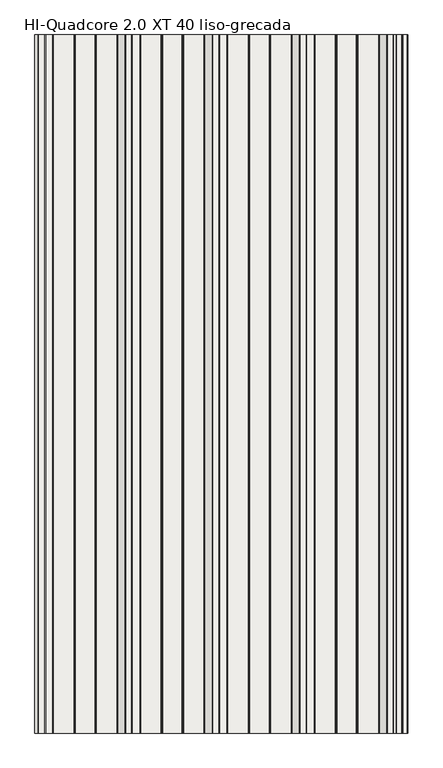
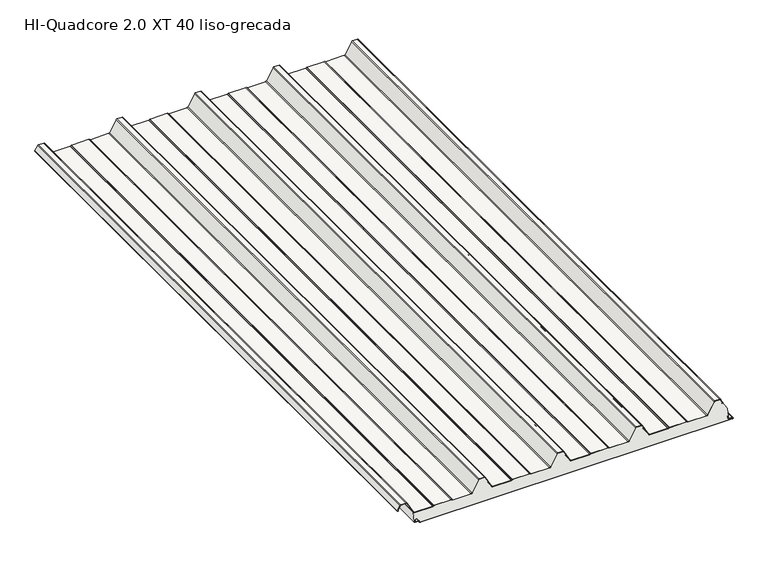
"""IFC4 building model written with IfcOpenShell, lengths in millimetres: slab geometry, HI_QuadCore2.0XT-XT DUAL : HI-Quadcore 2.0 XT 40 liso-grecada."""

from ifc_helpers import new_model, si_unit, point, frame, frame_2d, origin, place, context, project, spatial, polyline, circle_curve, trimmed, segment, composite_curve, outline, extrude, source, transform, mapped, element, save
from ifc_brep_helpers import plane_surface, cylinder_surface, revolved_surface, advanced_brep


def hi_quadcore_2_0_xt_40_liso_grecada_13bfc901(model_context):
    return source(origin(), model_context, "Body", "SolidModel", [
        advanced_brep(
        [(1186.4313891, 0.0, 13.3795578), (1185.8456418, 0.0, 11.9654043), (1185.8456037, 0.0, 8.2995811), (1187.6996787, 0.0, 6.328543), (1198.1077232, 0.0, 5.5663871), (1199.9032632, 0.0, 3.5769209), (1199.9033076, 0.0, 1.9756011), (1201.903363, 0.0, -0.0243435), (2197.9162803, 0.0, 0.003269), (2199.9046779, 0.0, 2.0032908), (2199.904653, 0.0, 2.9012893), (2198.0077486, 0.0, 4.8985749), (2186.1928118, 0.0, 5.7933732), (2184.3438482, 0.0, 7.7876066), (2184.3437386, 0.0, 11.7402379), (2183.757913, 0.0, 13.1544352), (2182.3436602, 0.0, 14.5686095), (2181.7779748, 0.0, 14.0029241), (2183.1922433, 0.0, 12.5887341), (2183.5437386, 0.0, 11.7402157), (2183.5438482, 0.0, 7.7875844), (2186.1323972, 0.0, 4.9956577), (2197.958132, 0.0, 4.1000416), (2199.104653, 0.0, 2.9012672), (2199.1046779, 0.0, 2.0032686), (2197.9136554, 0.0, 0.8032689), (1201.9033408, 0.0, 0.7756565), (1200.7033076, 0.0, 1.9756233), (1200.7032632, 0.0, 3.5769431), (1198.1768616, 0.0, 6.3634663), (1187.7581044, 0.0, 7.1264067), (1186.6457428, 0.0, 8.3231689), (1186.6456418, 0.0, 11.965396), (1186.9970902, 0.0, 12.8138881), (1189.1032183, 0.0, 14.920133), (1188.5375329, 0.0, 15.4858184), (1186.4313891, 2000.0, 13.3795578), (1188.5375329, 2000.0, 15.4858184), (1189.1032183, 2000.0, 14.920133), (1186.9970902, 2000.0, 12.8138881), (1186.6456418, 2000.0, 11.965396), (1186.6456037, 2000.0, 8.2995728), (1187.7581044, 2000.0, 7.1264067), (1198.1768616, 2000.0, 6.3634663), (1200.7032632, 2000.0, 3.5769431), (1200.7033076, 2000.0, 1.9756233), (1201.9033408, 2000.0, 0.7756565), (2197.9136554, 2000.0, 0.8032689), (2199.1046779, 2000.0, 2.0032686), (2199.104653, 2000.0, 2.9012672), (2197.958132, 2000.0, 4.1000416), (2186.1323972, 2000.0, 4.9956577), (2183.5438482, 2000.0, 7.7875844), (2183.5437386, 2000.0, 11.7402157), (2183.1922433, 2000.0, 12.5887341), (2181.7779748, 2000.0, 14.0029241), (2182.3436602, 2000.0, 14.5686095), (2183.757913, 2000.0, 13.1544352), (2184.3437386, 2000.0, 11.7402379), (2184.3438482, 2000.0, 7.7876066), (2186.1928118, 2000.0, 5.7933732), (2198.0077486, 2000.0, 4.8985749), (2199.904653, 2000.0, 2.9012893), (2199.9046779, 2000.0, 2.0032908), (2197.9162803, 2000.0, 0.003269), (1201.903363, 2000.0, -0.0243435), (1199.9033076, 2000.0, 1.9756011), (1199.9032632, 2000.0, 3.5769209), (1198.1077232, 2000.0, 5.5663871), (1187.6996787, 2000.0, 6.328543), (1185.8457428, 2000.0, 8.3231467), (1185.8456418, 2000.0, 11.9654043)],
        [
            (0, 1, circle_curve(frame((1187.8456418, 0.0, 11.9653834), z_axis=(0.0, -1.0, 0.0), x_axis=(1.0, 0.0, 0.0)), 2.0)),
            (1, 2),
            (2, 3, circle_curve(frame((1187.8457428, 0.0, 8.3232022), z_axis=(0.0, -1.0, 0.0), x_axis=(1.0, 0.0, 0.0)), 2.0)),
            (3, 4),
            (4, 5, circle_curve(frame((1197.9032632, 0.0, 3.5768655), z_axis=(0.0, 1.0, 0.0), x_axis=(1.0, 0.0, 0.0)), 2.0)),
            (5, 6),
            (6, 7, circle_curve(frame((1201.9033076, 0.0, 1.9756565), z_axis=(0.0, -1.0, 0.0), x_axis=(1.0, 0.0, 0.0)), 2.0)),
            (7, 8),
            (8, 9, circle_curve(frame((2197.9046779, 0.0, 2.0032353), z_axis=(0.0, -1.0, 0.0), x_axis=(1.0, 0.0, 0.0)), 2.0)),
            (9, 10),
            (10, 11, circle_curve(frame((2197.904653, 0.0, 2.9012339), z_axis=(0.0, -1.0, 0.0), x_axis=(1.0, 0.0, 0.0)), 2.0)),
            (11, 12),
            (12, 13, circle_curve(frame((2186.3438482, 0.0, 7.7876621), z_axis=(0.0, 1.0, 0.0), x_axis=(1.0, 0.0, 0.0)), 2.0)),
            (13, 14),
            (14, 15, circle_curve(frame((2182.3437386, 0.0, 11.7401824), z_axis=(0.0, -1.0, 0.0), x_axis=(1.0, 0.0, 0.0)), 2.0)),
            (15, 16),
            (16, 17),
            (17, 18),
            (18, 19, circle_curve(frame((2182.3437386, 0.0, 11.7401824), z_axis=(0.0, 1.0, 0.0), x_axis=(1.0, 0.0, 0.0)), 1.2)),
            (19, 20),
            (20, 21, circle_curve(frame((2186.3438482, 0.0, 7.7876621), z_axis=(0.0, -1.0, 0.0), x_axis=(1.0, 0.0, 0.0)), 2.8)),
            (21, 22),
            (22, 23, circle_curve(frame((2197.904653, 0.0, 2.9012339), z_axis=(0.0, 1.0, 0.0), x_axis=(1.0, 0.0, 0.0)), 1.2)),
            (23, 24),
            (24, 25, circle_curve(frame((2197.9046779, 0.0, 2.0032353), z_axis=(0.0, 1.0, 0.0), x_axis=(1.0, 0.0, 0.0)), 1.2)),
            (25, 26),
            (26, 27, circle_curve(frame((1201.9033076, 0.0, 1.9756565), z_axis=(0.0, 1.0, 0.0), x_axis=(1.0, 0.0, 0.0)), 1.2)),
            (27, 28),
            (28, 29, circle_curve(frame((1197.9032632, 0.0, 3.5768655), z_axis=(0.0, -1.0, 0.0), x_axis=(1.0, 0.0, 0.0)), 2.8)),
            (29, 30),
            (30, 31, circle_curve(frame((1187.8457428, 0.0, 8.3232022), z_axis=(0.0, 1.0, 0.0), x_axis=(1.0, 0.0, 0.0)), 1.2)),
            (31, 32),
            (32, 33, circle_curve(frame((1187.8456418, 0.0, 11.9653834), z_axis=(0.0, 1.0, 0.0), x_axis=(1.0, 0.0, 0.0)), 1.2)),
            (33, 34),
            (34, 35),
            (35, 0),
            (36, 37),
            (37, 38),
            (38, 39),
            (39, 40, circle_curve(frame((1187.8456418, 2000.0, 11.9653834), z_axis=(0.0, -1.0, 0.0), x_axis=(1.0, 0.0, 0.0)), 1.2)),
            (40, 41),
            (41, 42, circle_curve(frame((1187.8457428, 2000.0, 8.3232022), z_axis=(0.0, -1.0, 0.0), x_axis=(1.0, 0.0, 0.0)), 1.2)),
            (42, 43),
            (43, 44, circle_curve(frame((1197.9032632, 2000.0, 3.5768655), z_axis=(0.0, 1.0, 0.0), x_axis=(1.0, 0.0, 0.0)), 2.8)),
            (44, 45),
            (45, 46, circle_curve(frame((1201.9033076, 2000.0, 1.9756565), z_axis=(0.0, -1.0, 0.0), x_axis=(1.0, 0.0, 0.0)), 1.2)),
            (46, 47),
            (47, 48, circle_curve(frame((2197.9046779, 2000.0, 2.0032353), z_axis=(0.0, -1.0, 0.0), x_axis=(1.0, 0.0, 0.0)), 1.2)),
            (48, 49),
            (49, 50, circle_curve(frame((2197.904653, 2000.0, 2.9012339), z_axis=(0.0, -1.0, 0.0), x_axis=(1.0, 0.0, 0.0)), 1.2)),
            (50, 51),
            (51, 52, circle_curve(frame((2186.3438482, 2000.0, 7.7876621), z_axis=(0.0, 1.0, 0.0), x_axis=(1.0, 0.0, 0.0)), 2.8)),
            (52, 53),
            (53, 54, circle_curve(frame((2182.3437386, 2000.0, 11.7401824), z_axis=(0.0, -1.0, 0.0), x_axis=(1.0, 0.0, 0.0)), 1.2)),
            (54, 55),
            (55, 56),
            (56, 57),
            (57, 58, circle_curve(frame((2182.3437386, 2000.0, 11.7401824), z_axis=(0.0, 1.0, 0.0), x_axis=(1.0, 0.0, 0.0)), 2.0)),
            (58, 59),
            (59, 60, circle_curve(frame((2186.3438482, 2000.0, 7.7876621), z_axis=(0.0, -1.0, 0.0), x_axis=(1.0, 0.0, 0.0)), 2.0)),
            (60, 61),
            (61, 62, circle_curve(frame((2197.904653, 2000.0, 2.9012339), z_axis=(0.0, 1.0, 0.0), x_axis=(1.0, 0.0, 0.0)), 2.0)),
            (62, 63),
            (63, 64, circle_curve(frame((2197.9046779, 2000.0, 2.0032353), z_axis=(0.0, 1.0, 0.0), x_axis=(1.0, 0.0, 0.0)), 2.0)),
            (64, 65),
            (65, 66, circle_curve(frame((1201.9033076, 2000.0, 1.9756565), z_axis=(0.0, 1.0, 0.0), x_axis=(1.0, 0.0, 0.0)), 2.0)),
            (66, 67),
            (67, 68, circle_curve(frame((1197.9032632, 2000.0, 3.5768655), z_axis=(0.0, -1.0, 0.0), x_axis=(1.0, 0.0, 0.0)), 2.0)),
            (68, 69),
            (69, 70, circle_curve(frame((1187.8457428, 2000.0, 8.3232022), z_axis=(0.0, 1.0, 0.0), x_axis=(1.0, 0.0, 0.0)), 2.0)),
            (70, 71),
            (71, 36, circle_curve(frame((1187.8456418, 2000.0, 11.9653834), z_axis=(0.0, 1.0, 0.0), x_axis=(1.0, 0.0, 0.0)), 2.0)),
            (0, 36),
            (71, 1),
            (70, 2),
            (69, 3),
            (68, 4),
            (67, 5),
            (66, 6),
            (65, 7),
            (64, 8),
            (63, 9),
            (62, 10),
            (61, 11),
            (60, 12),
            (59, 13),
            (58, 14),
            (57, 15),
            (56, 16),
            (55, 17),
            (54, 18),
            (53, 19),
            (52, 20),
            (51, 21),
            (50, 22),
            (49, 23),
            (48, 24),
            (47, 25),
            (46, 26),
            (45, 27),
            (44, 28),
            (43, 29),
            (42, 30),
            (41, 31),
            (40, 32),
            (39, 33),
            (38, 34),
            (37, 35),
        ],
        [
            plane_surface(frame((1189.8456418, 0.0, 11.9653834), z_axis=(0.0, -1.0, 0.0), x_axis=(0.0, 0.0, 1.0))),
            plane_surface(frame((1189.8456418, 2000.0, 11.9653834), z_axis=(0.0, 1.0, 0.0), x_axis=(0.0, 0.0, -1.0))),
            cylinder_surface(frame((1187.8456418, 2000.0, 11.9653834), z_axis=(0.0, -1.0, 0.0), x_axis=(1.0, 0.0, 0.0)), 2.0),
            plane_surface(frame((1185.8456418, 0.0, 11.9654043), z_axis=(-0.9999999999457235, 0.0, 1.041887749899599e-05), x_axis=(0.0, 1.0, 0.0))),
            cylinder_surface(frame((1187.8457428, 2000.0, 8.3232022), z_axis=(0.0, -1.0, 0.0), x_axis=(1.0, 0.0, 0.0)), 2.0),
            plane_surface(frame((1187.6996787, 0.0, 6.328543), z_axis=(-0.07303203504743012, 0.0, -0.9973295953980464), x_axis=(0.0, 1.0, 0.0))),
            revolved_surface(polyline([(1199.9032632, 2000.0, 3.5768655), (1199.9032632, 0.0, 3.5768655)]), (1197.9032632, 2000.0, 3.5768655), (0.0, 1.0, 0.0)),
            plane_surface(frame((1199.9032632, 0.0, 3.5769209), z_axis=(-0.9999999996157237, 0.0, -2.7722781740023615e-05), x_axis=(0.0, 1.0, 0.0))),
            cylinder_surface(frame((1201.9033076, 2000.0, 1.9756565), z_axis=(0.0, -1.0, 0.0), x_axis=(1.0, 0.0, 0.0)), 2.0),
            plane_surface(frame((1201.903363, 0.0, -0.0243435), z_axis=(2.772298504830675e-05, 0.0, -0.9999999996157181), x_axis=(0.0, 1.0, 0.0))),
            cylinder_surface(frame((2197.9046779, 2000.0, 2.0032353), z_axis=(0.0, -1.0, 0.0), x_axis=(1.0, 0.0, 0.0)), 2.0),
            plane_surface(frame((2199.9046779, 0.0, 2.0032908), z_axis=(0.9999999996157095, 0.0, 2.7723295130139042e-05), x_axis=(0.0, 1.0, 0.0))),
            cylinder_surface(frame((2197.904653, 2000.0, 2.9012339), z_axis=(0.0, -1.0, 0.0), x_axis=(1.0, 0.0, 0.0)), 2.0),
            plane_surface(frame((2198.0077486, 0.0, 4.8985749), z_axis=(0.07551822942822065, 0.0, 0.9971444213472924), x_axis=(0.0, 1.0, 0.0))),
            revolved_surface(polyline([(2188.3438482, 2000.0, 7.7876621), (2188.3438482, 0.0, 7.7876621)]), (2186.3438482, 2000.0, 7.7876621), (0.0, 1.0, 0.0)),
            plane_surface(frame((2184.3438482, 0.0, 7.7876066), z_axis=(0.9999999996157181, 0.0, 2.7722984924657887e-05), x_axis=(0.0, 1.0, 0.0))),
            cylinder_surface(frame((2182.3437386, 2000.0, 11.7401824), z_axis=(0.0, -1.0, 0.0), x_axis=(1.0, 0.0, 0.0)), 2.0),
            plane_surface(frame((2183.757913, 0.0, 13.1544352), z_axis=(0.7070871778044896, 0.0, 0.7071263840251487), x_axis=(0.0, 1.0, 0.0))),
            plane_surface(frame((2182.3436602, 0.0, 14.5686095), z_axis=(-0.7071067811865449, 0.0, 0.7071067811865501), x_axis=(0.0, 1.0, 0.0))),
            plane_surface(frame((2181.7779748, 0.0, 14.0029241), z_axis=(-0.7070871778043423, 0.0, -0.707126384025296), x_axis=(0.0, 1.0, 0.0))),
            revolved_surface(polyline([(2183.5437386, 2000.0, 11.7401824), (2183.5437386, 0.0, 11.7401824)]), (2182.3437386, 2000.0, 11.7401824), (0.0, 1.0, 0.0)),
            plane_surface(frame((2183.5437386, 0.0, 11.7402157), z_axis=(-0.9999999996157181, 0.0, -2.7722985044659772e-05), x_axis=(0.0, 1.0, 0.0))),
            cylinder_surface(frame((2186.3438482, 2000.0, 7.7876621), z_axis=(0.0, -1.0, 0.0), x_axis=(1.0, 0.0, 0.0)), 2.8),
            plane_surface(frame((2186.1323972, 0.0, 4.9956577), z_axis=(-0.07551822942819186, 0.0, -0.9971444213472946), x_axis=(0.0, 1.0, 0.0))),
            revolved_surface(polyline([(2199.104653, 2000.0, 2.9012339), (2199.104653, 0.0, 2.9012339)]), (2197.904653, 2000.0, 2.9012339), (0.0, 1.0, 0.0)),
            plane_surface(frame((2199.104653, 0.0, 2.9012672), z_axis=(-0.9999999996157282, 0.0, -2.7722622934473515e-05), x_axis=(0.0, 1.0, 0.0))),
            revolved_surface(polyline([(2199.1046779, 2000.0, 2.0032353), (2199.1046779, 0.0, 2.0032353)]), (2197.9046779, 2000.0, 2.0032353), (0.0, 1.0, 0.0)),
            plane_surface(frame((2197.9136554, 0.0, 0.8032689), z_axis=(-2.7722985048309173e-05, 0.0, 0.9999999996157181), x_axis=(0.0, 1.0, 0.0))),
            revolved_surface(polyline([(1203.1033076, 2000.0, 1.9756565), (1203.1033076, 0.0, 1.9756565)]), (1201.9033076, 2000.0, 1.9756565), (0.0, 1.0, 0.0)),
            plane_surface(frame((1200.7033076, 0.0, 1.9756233), z_axis=(0.9999999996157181, 0.0, 2.7722983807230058e-05), x_axis=(0.0, 1.0, 0.0))),
            cylinder_surface(frame((1197.9032632, 2000.0, 3.5768655), z_axis=(0.0, -1.0, 0.0), x_axis=(1.0, 0.0, 0.0)), 2.8),
            plane_surface(frame((1198.1768616, 0.0, 6.3634663), z_axis=(0.0730320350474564, 0.0, 0.9973295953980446), x_axis=(0.0, 1.0, 0.0))),
            revolved_surface(polyline([(1189.0457428, 2000.0, 8.3232022), (1189.0457428, 0.0, 8.3232022)]), (1187.8457428, 2000.0, 8.3232022), (0.0, 1.0, 0.0)),
            plane_surface(frame((1186.6456037, 0.0, 8.2995728), z_axis=(0.9999999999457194, 0.0, -1.0419274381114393e-05), x_axis=(0.0, 1.0, 0.0))),
            revolved_surface(polyline([(1189.0456418, 2000.0, 11.9653834), (1189.0456418, 0.0, 11.9653834)]), (1187.8456418, 2000.0, 11.9653834), (0.0, 1.0, 0.0)),
            plane_surface(frame((1186.9970902, 0.0, 12.8138881), z_axis=(0.7071263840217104, 0.0, -0.7070871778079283), x_axis=(0.0, 1.0, 0.0))),
            plane_surface(frame((1189.1032183, 0.0, 14.920133), z_axis=(0.7071067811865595, 0.0, 0.7071067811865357), x_axis=(0.0, 1.0, 0.0))),
            plane_surface(frame((1188.5375329, 0.0, 15.4858184), z_axis=(-0.7071263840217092, 0.0, 0.7070871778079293), x_axis=(0.0, 1.0, 0.0))),
        ],
        [
            (0, [[1, 2, 3, 4, 5, 6, 7, 8, 9, 10, 11, 12, 13, 14, 15, 16, 17, 18, 19, 20, 21, 22, 23, 24, 25, 26, 27, 28, 29, 30, 31, 32, 33, 34, 35, 36]]),
            (1, [[37, 38, 39, 40, 41, 42, 43, 44, 45, 46, 47, 48, 49, 50, 51, 52, 53, 54, 55, 56, 57, 58, 59, 60, 61, 62, 63, 64, 65, 66, 67, 68, 69, 70, 71, 72]]),
            (2, [[-1, 73, -72, 74]]),
            (3, [[-2, -74, -71, 75]]),
            (4, [[-3, -75, -70, 76]]),
            (5, [[-4, -76, -69, 77]]),
            (6, [[-5, -77, -68, 78]]),
            (7, [[-6, -78, -67, 79]]),
            (8, [[-7, -79, -66, 80]]),
            (9, [[-8, -80, -65, 81]]),
            (10, [[-9, -81, -64, 82]]),
            (11, [[-10, -82, -63, 83]]),
            (12, [[-11, -83, -62, 84]]),
            (13, [[-12, -84, -61, 85]]),
            (14, [[-13, -85, -60, 86]]),
            (15, [[-14, -86, -59, 87]]),
            (16, [[-15, -87, -58, 88]]),
            (17, [[-16, -88, -57, 89]]),
            (18, [[-17, -89, -56, 90]]),
            (19, [[-18, -90, -55, 91]]),
            (20, [[-19, -91, -54, 92]]),
            (21, [[-20, -92, -53, 93]]),
            (22, [[-21, -93, -52, 94]]),
            (23, [[-22, -94, -51, 95]]),
            (24, [[-23, -95, -50, 96]]),
            (25, [[-24, -96, -49, 97]]),
            (26, [[-25, -97, -48, 98]]),
            (27, [[-26, -98, -47, 99]]),
            (28, [[-27, -99, -46, 100]]),
            (29, [[-28, -100, -45, 101]]),
            (30, [[-29, -101, -44, 102]]),
            (31, [[-30, -102, -43, 103]]),
            (32, [[-31, -103, -42, 104]]),
            (33, [[-32, -104, -41, 105]]),
            (34, [[-33, -105, -40, 106]]),
            (35, [[-34, -106, -39, 107]]),
            (36, [[-35, -107, -38, 108]]),
            (37, [[-36, -108, -37, -73]]),
        ],
    ),
        extrude(outline(composite_curve([segment(polyline([(78.1649405, 1138.5141429), (63.6579587, 1130.3539656)]), True, "CONTINUOUS"), segment(trimmed(circle_curve(frame_2d((63.0451321, 1131.443435)), 1.25), [point((63.6579587, 1130.3539656))], [point((62.689225, 1132.6416963))], False, "CARTESIAN"), True, "CONTINUOUS"), segment(polyline([(62.689225, 1132.6416963), (65.7359115, 1133.437141), (65.9380053, 1132.663088), (62.9074492, 1131.8718547)]), True, "CONTINUOUS"), segment(trimmed(circle_curve(frame_2d((63.0451321, 1131.443435)), 0.45), [point((62.9074492, 1131.8718547))], [point((63.2657497, 1131.051226))], True, "CARTESIAN"), True, "CONTINUOUS"), segment(polyline([(63.2657497, 1131.051226), (77.7727315, 1139.2114033)]), True, "CONTINUOUS"), segment(trimmed(circle_curve(frame_2d((76.4, 1141.6518148)), 2.8), [point((77.7727315, 1139.2114033))], [point((79.2, 1141.6518148))], True, "CARTESIAN"), True, "CONTINUOUS"), segment(polyline([(79.2, 1141.6518148), (79.2, 1158.9311117)]), True, "CONTINUOUS"), segment(trimmed(circle_curve(frame_2d((76.4, 1158.9311117)), 2.8), [point((79.2, 1158.9311117))], [point((77.5457267, 1161.4859719))], True, "CARTESIAN"), True, "CONTINUOUS"), segment(polyline([(77.5457267, 1161.4859719), (41.2048889, 1181.3052775)]), True, "CONTINUOUS"), segment(trimmed(circle_curve(frame_2d((43.0, 1184.6545425)), 3.8), [point((41.2048889, 1181.3052775))], [point((39.2, 1184.6545425))], False, "CARTESIAN"), True, "CONTINUOUS"), segment(polyline([(39.2, 1184.6545425), (39.2, 1242.4489557)]), True, "CONTINUOUS"), segment(trimmed(circle_curve(frame_2d((43.0, 1242.4489557)), 3.8), [point((39.2, 1242.4489557))], [point((39.6973596, 1244.328468))], False, "CARTESIAN"), True, "CONTINUOUS"), segment(polyline([(39.6973596, 1244.328468), (40.912055, 1246.4629056)]), True, "CONTINUOUS"), segment(trimmed(circle_curve(frame_2d((39.0, 1247.5510443)), 2.2), [point((40.912055, 1246.4629056))], [point((41.2, 1247.5510443))], True, "CARTESIAN"), True, "CONTINUOUS"), segment(polyline([(41.2, 1247.5510443), (41.2, 1302.4489557)]), True, "CONTINUOUS"), segment(trimmed(circle_curve(frame_2d((39.0, 1302.4489557)), 2.2), [point((41.2, 1302.4489557))], [point((40.912055, 1303.5370944))], True, "CARTESIAN"), True, "CONTINUOUS"), segment(polyline([(40.912055, 1303.5370944), (39.6973596, 1305.671532)]), True, "CONTINUOUS"), segment(trimmed(circle_curve(frame_2d((43.0, 1307.5510443)), 3.8), [point((39.6973596, 1305.671532))], [point((39.2, 1307.5510443))], False, "CARTESIAN"), True, "CONTINUOUS"), segment(polyline([(39.2, 1307.5510443), (39.2, 1365.7454575)]), True, "CONTINUOUS"), segment(trimmed(circle_curve(frame_2d((43.0, 1365.7454575)), 3.8), [point((39.2, 1365.7454575))], [point((41.1370073, 1369.0574446))], False, "CARTESIAN"), True, "CONTINUOUS"), segment(polyline([(41.1370073, 1369.0574446), (78.0785747, 1389.8370763)]), True, "CONTINUOUS"), segment(trimmed(circle_curve(frame_2d((77.0, 1391.7545425)), 2.2), [point((78.0785747, 1389.8370763))], [point((79.2, 1391.7545425))], True, "CARTESIAN"), True, "CONTINUOUS"), segment(polyline([(79.2, 1391.7545425), (79.2, 1408.2454575)]), True, "CONTINUOUS"), segment(trimmed(circle_curve(frame_2d((77.0, 1408.2454575)), 2.2), [point((79.2, 1408.2454575))], [point((78.0785747, 1410.1629237))], True, "CARTESIAN"), True, "CONTINUOUS"), segment(polyline([(78.0785747, 1410.1629237), (41.1370073, 1430.9425554)]), True, "CONTINUOUS"), segment(trimmed(circle_curve(frame_2d((43.0, 1434.2545425)), 3.8), [point((41.1370073, 1430.9425554))], [point((39.2, 1434.2545425))], False, "CARTESIAN"), True, "CONTINUOUS"), segment(polyline([(39.2, 1434.2545425), (39.2, 1492.4489557)]), True, "CONTINUOUS"), segment(trimmed(circle_curve(frame_2d((43.0, 1492.4489557)), 3.8), [point((39.2, 1492.4489557))], [point((39.6973596, 1494.328468))], False, "CARTESIAN"), True, "CONTINUOUS"), segment(polyline([(39.6973596, 1494.328468), (40.912055, 1496.4629056)]), True, "CONTINUOUS"), segment(trimmed(circle_curve(frame_2d((39.0, 1497.5510443)), 2.2), [point((40.912055, 1496.4629056))], [point((41.2, 1497.5510443))], True, "CARTESIAN"), True, "CONTINUOUS"), segment(polyline([(41.2, 1497.5510443), (41.2, 1552.4489557)]), True, "CONTINUOUS"), segment(trimmed(circle_curve(frame_2d((39.0, 1552.4489557)), 2.2), [point((41.2, 1552.4489557))], [point((40.912055, 1553.5370944))], True, "CARTESIAN"), True, "CONTINUOUS"), segment(polyline([(40.912055, 1553.5370944), (39.6973596, 1555.671532)]), True, "CONTINUOUS"), segment(trimmed(circle_curve(frame_2d((43.0, 1557.5510443)), 3.8), [point((39.6973596, 1555.671532))], [point((39.2, 1557.5510443))], False, "CARTESIAN"), True, "CONTINUOUS"), segment(polyline([(39.2, 1557.5510443), (39.2, 1615.7454575)]), True, "CONTINUOUS"), segment(trimmed(circle_curve(frame_2d((43.0, 1615.7454575)), 3.8), [point((39.2, 1615.7454575))], [point((41.1370073, 1619.0574446))], False, "CARTESIAN"), True, "CONTINUOUS"), segment(polyline([(41.1370073, 1619.0574446), (78.0785747, 1639.8370763)]), True, "CONTINUOUS"), segment(trimmed(circle_curve(frame_2d((77.0, 1641.7545425)), 2.2), [point((78.0785747, 1639.8370763))], [point((79.2, 1641.7545425))], True, "CARTESIAN"), True, "CONTINUOUS"), segment(polyline([(79.2, 1641.7545425), (79.2, 1658.2454575)]), True, "CONTINUOUS"), segment(trimmed(circle_curve(frame_2d((77.0, 1658.2454575)), 2.2), [point((79.2, 1658.2454575))], [point((78.0785747, 1660.1629237))], True, "CARTESIAN"), True, "CONTINUOUS"), segment(polyline([(78.0785747, 1660.1629237), (41.1370073, 1680.9425554)]), True, "CONTINUOUS"), segment(trimmed(circle_curve(frame_2d((43.0, 1684.2545425)), 3.8), [point((41.1370073, 1680.9425554))], [point((39.2, 1684.2545425))], False, "CARTESIAN"), True, "CONTINUOUS"), segment(polyline([(39.2, 1684.2545425), (39.2, 1742.4489557)]), True, "CONTINUOUS"), segment(trimmed(circle_curve(frame_2d((43.0, 1742.4489557)), 3.8), [point((39.2, 1742.4489557))], [point((39.6973596, 1744.328468))], False, "CARTESIAN"), True, "CONTINUOUS"), segment(polyline([(39.6973596, 1744.328468), (40.912055, 1746.4629056)]), True, "CONTINUOUS"), segment(trimmed(circle_curve(frame_2d((39.0, 1747.5510443)), 2.2), [point((40.912055, 1746.4629056))], [point((41.2, 1747.5510443))], True, "CARTESIAN"), True, "CONTINUOUS"), segment(polyline([(41.2, 1747.5510443), (41.2, 1802.4489557)]), True, "CONTINUOUS"), segment(trimmed(circle_curve(frame_2d((39.0, 1802.4489557)), 2.2), [point((41.2, 1802.4489557))], [point((40.912055, 1803.5370944))], True, "CARTESIAN"), True, "CONTINUOUS"), segment(polyline([(40.912055, 1803.5370944), (39.6973596, 1805.671532)]), True, "CONTINUOUS"), segment(trimmed(circle_curve(frame_2d((43.0, 1807.5510443)), 3.8), [point((39.6973596, 1805.671532))], [point((39.2, 1807.5510443))], False, "CARTESIAN"), True, "CONTINUOUS"), segment(polyline([(39.2, 1807.5510443), (39.2, 1865.7454575)]), True, "CONTINUOUS"), segment(trimmed(circle_curve(frame_2d((43.0, 1865.7454575)), 3.8), [point((39.2, 1865.7454575))], [point((41.1370073, 1869.0574446))], False, "CARTESIAN"), True, "CONTINUOUS"), segment(polyline([(41.1370073, 1869.0574446), (78.0785747, 1889.8370763)]), True, "CONTINUOUS"), segment(trimmed(circle_curve(frame_2d((77.0, 1891.7545425)), 2.2), [point((78.0785747, 1889.8370763))], [point((79.2, 1891.7545425))], True, "CARTESIAN"), True, "CONTINUOUS"), segment(polyline([(79.2, 1891.7545425), (79.2, 1908.2454575)]), True, "CONTINUOUS"), segment(trimmed(circle_curve(frame_2d((77.0, 1908.2454575)), 2.2), [point((79.2, 1908.2454575))], [point((78.0785747, 1910.1629237))], True, "CARTESIAN"), True, "CONTINUOUS"), segment(polyline([(78.0785747, 1910.1629237), (41.1370073, 1930.9425554)]), True, "CONTINUOUS"), segment(trimmed(circle_curve(frame_2d((43.0, 1934.2545425)), 3.8), [point((41.1370073, 1930.9425554))], [point((39.2, 1934.2545425))], False, "CARTESIAN"), True, "CONTINUOUS"), segment(polyline([(39.2, 1934.2545425), (39.2, 1992.4489557)]), True, "CONTINUOUS"), segment(trimmed(circle_curve(frame_2d((43.0, 1992.4489557)), 3.8), [point((39.2, 1992.4489557))], [point((39.6973596, 1994.328468))], False, "CARTESIAN"), True, "CONTINUOUS"), segment(polyline([(39.6973596, 1994.328468), (40.912055, 1996.4629056)]), True, "CONTINUOUS"), segment(trimmed(circle_curve(frame_2d((39.0, 1997.5510443)), 2.2), [point((40.912055, 1996.4629056))], [point((41.2, 1997.5510443))], True, "CARTESIAN"), True, "CONTINUOUS"), segment(polyline([(41.2, 1997.5510443), (41.2, 2052.4489557)]), True, "CONTINUOUS"), segment(trimmed(circle_curve(frame_2d((39.0, 2052.4489557)), 2.2), [point((41.2, 2052.4489557))], [point((40.912055, 2053.5370944))], True, "CARTESIAN"), True, "CONTINUOUS"), segment(polyline([(40.912055, 2053.5370944), (39.6973596, 2055.671532)]), True, "CONTINUOUS"), segment(trimmed(circle_curve(frame_2d((43.0, 2057.5510443)), 3.8), [point((39.6973596, 2055.671532))], [point((39.2, 2057.5510443))], False, "CARTESIAN"), True, "CONTINUOUS"), segment(polyline([(39.2, 2057.5510443), (39.2, 2116.4208923)]), True, "CONTINUOUS"), segment(trimmed(circle_curve(frame_2d((43.0, 2116.4208923)), 3.8), [point((39.2, 2116.4208923))], [point((41.1583504, 2119.7447946))], False, "CARTESIAN"), True, "CONTINUOUS"), segment(polyline([(41.1583504, 2119.7447946), (78.0662182, 2140.1940602)]), True, "CONTINUOUS"), segment(trimmed(circle_curve(frame_2d((77.0, 2142.1184247)), 2.2), [point((78.0662182, 2140.1940602))], [point((79.2, 2142.1184247))], True, "CARTESIAN"), True, "CONTINUOUS"), segment(polyline([(79.2, 2142.1184247), (79.2, 2157.4945491)]), True, "CONTINUOUS"), segment(trimmed(circle_curve(frame_2d((77.0, 2157.4945491)), 2.2), [point((79.2, 2157.4945491))], [point((78.0785747, 2159.4120152))], True, "CARTESIAN"), True, "CONTINUOUS"), segment(polyline([(78.0785747, 2159.4120152), (67.5275176, 2165.3469849)]), True, "CONTINUOUS"), segment(trimmed(circle_curve(frame_2d((66.9392041, 2164.3010942)), 1.2), [point((67.5275176, 2165.3469849))], [point((66.3392623, 2165.3403583))], True, "CARTESIAN"), True, "CONTINUOUS"), segment(polyline([(66.3392623, 2165.3403583), (64.7281681, 2164.4103128), (64.3282068, 2165.1031555), (65.939301, 2166.033201)]), True, "CONTINUOUS"), segment(trimmed(circle_curve(frame_2d((66.9392041, 2164.3010942)), 2.0), [point((65.939301, 2166.033201))], [point((67.9197266, 2166.0442453))], False, "CARTESIAN"), True, "CONTINUOUS"), segment(polyline([(67.9197266, 2166.0442453), (78.4707837, 2160.1092757)]), True, "CONTINUOUS"), segment(trimmed(circle_curve(frame_2d((77.0, 2157.4945491)), 3.0), [point((78.4707837, 2160.1092757))], [point((80.0, 2157.4945491))], False, "CARTESIAN"), True, "CONTINUOUS"), segment(polyline([(80.0, 2157.4945491), (80.0, 2142.1184247)]), True, "CONTINUOUS"), segment(trimmed(circle_curve(frame_2d((77.0, 2142.1184247)), 3.0), [point((80.0, 2142.1184247))], [point((78.4539339, 2139.4942913))], False, "CARTESIAN"), True, "CONTINUOUS"), segment(polyline([(78.4539339, 2139.4942913), (41.5460661, 2119.0450257)]), True, "CONTINUOUS"), segment(trimmed(circle_curve(frame_2d((43.0, 2116.4208923)), 3.0), [point((41.5460661, 2119.0450257))], [point((40.0, 2116.4208923))], True, "CARTESIAN"), True, "CONTINUOUS"), segment(polyline([(40.0, 2116.4208923), (40.0, 2057.5510443)]), True, "CONTINUOUS"), segment(trimmed(circle_curve(frame_2d((43.0, 2057.5510443)), 3.0), [point((40.0, 2057.5510443))], [point((40.3926523, 2056.0672188))], True, "CARTESIAN"), True, "CONTINUOUS"), segment(polyline([(40.3926523, 2056.0672188), (41.6073477, 2053.9327812)]), True, "CONTINUOUS"), segment(trimmed(circle_curve(frame_2d((39.0, 2052.4489557)), 3.0), [point((41.6073477, 2053.9327812))], [point((42.0, 2052.4489557))], False, "CARTESIAN"), True, "CONTINUOUS"), segment(polyline([(42.0, 2052.4489557), (42.0, 1997.5510443)]), True, "CONTINUOUS"), segment(trimmed(circle_curve(frame_2d((39.0, 1997.5510443)), 3.0), [point((42.0, 1997.5510443))], [point((41.6073477, 1996.0672188))], False, "CARTESIAN"), True, "CONTINUOUS"), segment(polyline([(41.6073477, 1996.0672188), (40.3926523, 1993.9327812)]), True, "CONTINUOUS"), segment(trimmed(circle_curve(frame_2d((43.0, 1992.4489557)), 3.0), [point((40.3926523, 1993.9327812))], [point((40.0, 1992.4489557))], True, "CARTESIAN"), True, "CONTINUOUS"), segment(polyline([(40.0, 1992.4489557), (40.0, 1934.2545425)]), True, "CONTINUOUS"), segment(trimmed(circle_curve(frame_2d((43.0, 1934.2545425)), 3.0), [point((40.0, 1934.2545425))], [point((41.5292163, 1931.6398158))], True, "CARTESIAN"), True, "CONTINUOUS"), segment(polyline([(41.5292163, 1931.6398158), (78.4707837, 1910.8601842)]), True, "CONTINUOUS"), segment(trimmed(circle_curve(frame_2d((77.0, 1908.2454575)), 3.0), [point((78.4707837, 1910.8601842))], [point((80.0, 1908.2454575))], False, "CARTESIAN"), True, "CONTINUOUS"), segment(polyline([(80.0, 1908.2454575), (80.0, 1891.7545425)]), True, "CONTINUOUS"), segment(trimmed(circle_curve(frame_2d((77.0, 1891.7545425)), 3.0), [point((80.0, 1891.7545425))], [point((78.4707837, 1889.1398158))], False, "CARTESIAN"), True, "CONTINUOUS"), segment(polyline([(78.4707837, 1889.1398158), (41.5292163, 1868.3601842)]), True, "CONTINUOUS"), segment(trimmed(circle_curve(frame_2d((43.0, 1865.7454575)), 3.0), [point((41.5292163, 1868.3601842))], [point((40.0, 1865.7454575))], True, "CARTESIAN"), True, "CONTINUOUS"), segment(polyline([(40.0, 1865.7454575), (40.0, 1807.5510443)]), True, "CONTINUOUS"), segment(trimmed(circle_curve(frame_2d((43.0, 1807.5510443)), 3.0), [point((40.0, 1807.5510443))], [point((40.3926523, 1806.0672188))], True, "CARTESIAN"), True, "CONTINUOUS"), segment(polyline([(40.3926523, 1806.0672188), (41.6073477, 1803.9327812)]), True, "CONTINUOUS"), segment(trimmed(circle_curve(frame_2d((39.0, 1802.4489557)), 3.0), [point((41.6073477, 1803.9327812))], [point((42.0, 1802.4489557))], False, "CARTESIAN"), True, "CONTINUOUS"), segment(polyline([(42.0, 1802.4489557), (42.0, 1747.5510443)]), True, "CONTINUOUS"), segment(trimmed(circle_curve(frame_2d((39.0, 1747.5510443)), 3.0), [point((42.0, 1747.5510443))], [point((41.6073477, 1746.0672188))], False, "CARTESIAN"), True, "CONTINUOUS"), segment(polyline([(41.6073477, 1746.0672188), (40.3926523, 1743.9327812)]), True, "CONTINUOUS"), segment(trimmed(circle_curve(frame_2d((43.0, 1742.4489557)), 3.0), [point((40.3926523, 1743.9327812))], [point((40.0, 1742.4489557))], True, "CARTESIAN"), True, "CONTINUOUS"), segment(polyline([(40.0, 1742.4489557), (40.0, 1684.2545425)]), True, "CONTINUOUS"), segment(trimmed(circle_curve(frame_2d((43.0, 1684.2545425)), 3.0), [point((40.0, 1684.2545425))], [point((41.5292163, 1681.6398158))], True, "CARTESIAN"), True, "CONTINUOUS"), segment(polyline([(41.5292163, 1681.6398158), (78.4707837, 1660.8601842)]), True, "CONTINUOUS"), segment(trimmed(circle_curve(frame_2d((77.0, 1658.2454575)), 3.0), [point((78.4707837, 1660.8601842))], [point((80.0, 1658.2454575))], False, "CARTESIAN"), True, "CONTINUOUS"), segment(polyline([(80.0, 1658.2454575), (80.0, 1641.7545425)]), True, "CONTINUOUS"), segment(trimmed(circle_curve(frame_2d((77.0, 1641.7545425)), 3.0), [point((80.0, 1641.7545425))], [point((78.4707837, 1639.1398158))], False, "CARTESIAN"), True, "CONTINUOUS"), segment(polyline([(78.4707837, 1639.1398158), (41.5292163, 1618.3601842)]), True, "CONTINUOUS"), segment(trimmed(circle_curve(frame_2d((43.0, 1615.7454575)), 3.0), [point((41.5292163, 1618.3601842))], [point((40.0, 1615.7454575))], True, "CARTESIAN"), True, "CONTINUOUS"), segment(polyline([(40.0, 1615.7454575), (40.0, 1557.5510443)]), True, "CONTINUOUS"), segment(trimmed(circle_curve(frame_2d((43.0, 1557.5510443)), 3.0), [point((40.0, 1557.5510443))], [point((40.3926523, 1556.0672188))], True, "CARTESIAN"), True, "CONTINUOUS"), segment(polyline([(40.3926523, 1556.0672188), (41.6073477, 1553.9327812)]), True, "CONTINUOUS"), segment(trimmed(circle_curve(frame_2d((39.0, 1552.4489557)), 3.0), [point((41.6073477, 1553.9327812))], [point((42.0, 1552.4489557))], False, "CARTESIAN"), True, "CONTINUOUS"), segment(polyline([(42.0, 1552.4489557), (42.0, 1497.5510443)]), True, "CONTINUOUS"), segment(trimmed(circle_curve(frame_2d((39.0, 1497.5510443)), 3.0), [point((42.0, 1497.5510443))], [point((41.6073477, 1496.0672188))], False, "CARTESIAN"), True, "CONTINUOUS"), segment(polyline([(41.6073477, 1496.0672188), (40.3926523, 1493.9327812)]), True, "CONTINUOUS"), segment(trimmed(circle_curve(frame_2d((43.0, 1492.4489557)), 3.0), [point((40.3926523, 1493.9327812))], [point((40.0, 1492.4489557))], True, "CARTESIAN"), True, "CONTINUOUS"), segment(polyline([(40.0, 1492.4489557), (40.0, 1434.2545425)]), True, "CONTINUOUS"), segment(trimmed(circle_curve(frame_2d((43.0, 1434.2545425)), 3.0), [point((40.0, 1434.2545425))], [point((41.5292163, 1431.6398158))], True, "CARTESIAN"), True, "CONTINUOUS"), segment(polyline([(41.5292163, 1431.6398158), (78.4707837, 1410.8601842)]), True, "CONTINUOUS"), segment(trimmed(circle_curve(frame_2d((77.0, 1408.2454575)), 3.0), [point((78.4707837, 1410.8601842))], [point((80.0, 1408.2454575))], False, "CARTESIAN"), True, "CONTINUOUS"), segment(polyline([(80.0, 1408.2454575), (80.0, 1391.7545425)]), True, "CONTINUOUS"), segment(trimmed(circle_curve(frame_2d((77.0, 1391.7545425)), 3.0), [point((80.0, 1391.7545425))], [point((78.4707837, 1389.1398158))], False, "CARTESIAN"), True, "CONTINUOUS"), segment(polyline([(78.4707837, 1389.1398158), (41.5292163, 1368.3601842)]), True, "CONTINUOUS"), segment(trimmed(circle_curve(frame_2d((43.0, 1365.7454575)), 3.0), [point((41.5292163, 1368.3601842))], [point((40.0, 1365.7454575))], True, "CARTESIAN"), True, "CONTINUOUS"), segment(polyline([(40.0, 1365.7454575), (40.0, 1307.5510443)]), True, "CONTINUOUS"), segment(trimmed(circle_curve(frame_2d((43.0, 1307.5510443)), 3.0), [point((40.0, 1307.5510443))], [point((40.3926523, 1306.0672188))], True, "CARTESIAN"), True, "CONTINUOUS"), segment(polyline([(40.3926523, 1306.0672188), (41.6073477, 1303.9327812)]), True, "CONTINUOUS"), segment(trimmed(circle_curve(frame_2d((39.0, 1302.4489557)), 3.0), [point((41.6073477, 1303.9327812))], [point((42.0, 1302.4489557))], False, "CARTESIAN"), True, "CONTINUOUS"), segment(polyline([(42.0, 1302.4489557), (42.0, 1247.5510443)]), True, "CONTINUOUS"), segment(trimmed(circle_curve(frame_2d((39.0, 1247.5510443)), 3.0), [point((42.0, 1247.5510443))], [point((41.6073477, 1246.0672188))], False, "CARTESIAN"), True, "CONTINUOUS"), segment(polyline([(41.6073477, 1246.0672188), (40.3926523, 1243.9327812)]), True, "CONTINUOUS"), segment(trimmed(circle_curve(frame_2d((43.0, 1242.4489557)), 3.0), [point((40.3926523, 1243.9327812))], [point((40.0, 1242.4489557))], True, "CARTESIAN"), True, "CONTINUOUS"), segment(polyline([(40.0, 1242.4489557), (40.0, 1184.6545425)]), True, "CONTINUOUS"), segment(trimmed(circle_curve(frame_2d((43.0, 1184.6545425)), 3.0), [point((40.0, 1184.6545425))], [point((41.5852209, 1182.0090935))], True, "CARTESIAN"), True, "CONTINUOUS"), segment(polyline([(41.5852209, 1182.0090935), (77.9031732, 1162.2022691)]), True, "CONTINUOUS"), segment(trimmed(circle_curve(frame_2d((76.4, 1158.9311117)), 3.6), [point((77.9031732, 1162.2022691))], [point((80.0, 1158.9311117))], False, "CARTESIAN"), True, "CONTINUOUS"), segment(polyline([(80.0, 1158.9311117), (80.0, 1141.6518148)]), True, "CONTINUOUS"), segment(trimmed(circle_curve(frame_2d((76.4, 1141.6518148)), 3.6), [point((80.0, 1141.6518148))], [point((78.1649405, 1138.5141429))], False, "CARTESIAN"), True, "CONTINUOUS")], self_intersect=False)), frame((0.0, 0.0, 0.0), z_axis=(0.0, 1.0, 0.0), x_axis=(0.0, 0.0, 1.0)), (0.0, 0.0, 1.0), 2000.0),
        extrude(outline(composite_curve([segment(polyline([(41.2667387, 2181.036551), (67.9197266, 2166.0442453)]), True, "CONTINUOUS"), segment(trimmed(circle_curve(frame_2d((66.9392041, 2164.3010942)), 2.0), [point((67.9197266, 2166.0442453))], [point((65.939301, 2166.033201))], True, "CARTESIAN"), True, "CONTINUOUS"), segment(polyline([(65.939301, 2166.033201), (64.3282068, 2165.1031555), (64.7281681, 2164.4103128), (66.3392623, 2165.3403583)]), True, "CONTINUOUS"), segment(trimmed(circle_curve(frame_2d((66.9392041, 2164.3010942)), 1.2), [point((66.3392623, 2165.3403583))], [point((67.5275176, 2165.3469849))], False, "CARTESIAN"), True, "CONTINUOUS"), segment(polyline([(67.5275176, 2165.3469849), (78.0785747, 2159.4120152)]), True, "CONTINUOUS"), segment(trimmed(circle_curve(frame_2d((77.0, 2157.4945491)), 2.2), [point((78.0785747, 2159.4120152))], [point((79.2, 2157.4945491))], False, "CARTESIAN"), True, "CONTINUOUS"), segment(polyline([(79.2, 2157.4945491), (79.2, 2142.1184247)]), True, "CONTINUOUS"), segment(trimmed(circle_curve(frame_2d((77.0, 2142.1184247)), 2.2), [point((79.2, 2142.1184247))], [point((78.0662182, 2140.1940602))], False, "CARTESIAN"), True, "CONTINUOUS"), segment(polyline([(78.0662182, 2140.1940602), (41.1583504, 2119.7447946)]), True, "CONTINUOUS"), segment(trimmed(circle_curve(frame_2d((43.0, 2116.4208923)), 3.8), [point((41.1583504, 2119.7447946))], [point((39.2, 2116.4208923))], True, "CARTESIAN"), True, "CONTINUOUS"), segment(polyline([(39.2, 2116.4208923), (39.2, 2057.5510443)]), True, "CONTINUOUS"), segment(trimmed(circle_curve(frame_2d((43.0, 2057.5510443)), 3.8), [point((39.2, 2057.5510443))], [point((39.6973596, 2055.671532))], True, "CARTESIAN"), True, "CONTINUOUS"), segment(polyline([(39.6973596, 2055.671532), (40.912055, 2053.5370944)]), True, "CONTINUOUS"), segment(trimmed(circle_curve(frame_2d((39.0, 2052.4489557)), 2.2), [point((40.912055, 2053.5370944))], [point((41.2, 2052.4489557))], False, "CARTESIAN"), True, "CONTINUOUS"), segment(polyline([(41.2, 2052.4489557), (41.2, 1997.5510443)]), True, "CONTINUOUS"), segment(trimmed(circle_curve(frame_2d((39.0, 1997.5510443)), 2.2), [point((41.2, 1997.5510443))], [point((40.912055, 1996.4629056))], False, "CARTESIAN"), True, "CONTINUOUS"), segment(polyline([(40.912055, 1996.4629056), (39.6973596, 1994.328468)]), True, "CONTINUOUS"), segment(trimmed(circle_curve(frame_2d((43.0, 1992.4489557)), 3.8), [point((39.6973596, 1994.328468))], [point((39.2, 1992.4489557))], True, "CARTESIAN"), True, "CONTINUOUS"), segment(polyline([(39.2, 1992.4489557), (39.2, 1934.2545425)]), True, "CONTINUOUS"), segment(trimmed(circle_curve(frame_2d((43.0, 1934.2545425)), 3.8), [point((39.2, 1934.2545425))], [point((41.1370073, 1930.9425554))], True, "CARTESIAN"), True, "CONTINUOUS"), segment(polyline([(41.1370073, 1930.9425554), (78.0785747, 1910.1629237)]), True, "CONTINUOUS"), segment(trimmed(circle_curve(frame_2d((77.0, 1908.2454575)), 2.2), [point((78.0785747, 1910.1629237))], [point((79.2, 1908.2454575))], False, "CARTESIAN"), True, "CONTINUOUS"), segment(polyline([(79.2, 1908.2454575), (79.2, 1891.7545425)]), True, "CONTINUOUS"), segment(trimmed(circle_curve(frame_2d((77.0, 1891.7545425)), 2.2), [point((79.2, 1891.7545425))], [point((78.0785747, 1889.8370763))], False, "CARTESIAN"), True, "CONTINUOUS"), segment(polyline([(78.0785747, 1889.8370763), (41.1370073, 1869.0574446)]), True, "CONTINUOUS"), segment(trimmed(circle_curve(frame_2d((43.0, 1865.7454575)), 3.8), [point((41.1370073, 1869.0574446))], [point((39.2, 1865.7454575))], True, "CARTESIAN"), True, "CONTINUOUS"), segment(polyline([(39.2, 1865.7454575), (39.2, 1807.5510443)]), True, "CONTINUOUS"), segment(trimmed(circle_curve(frame_2d((43.0, 1807.5510443)), 3.8), [point((39.2, 1807.5510443))], [point((39.6973596, 1805.671532))], True, "CARTESIAN"), True, "CONTINUOUS"), segment(polyline([(39.6973596, 1805.671532), (40.912055, 1803.5370944)]), True, "CONTINUOUS"), segment(trimmed(circle_curve(frame_2d((39.0, 1802.4489557)), 2.2), [point((40.912055, 1803.5370944))], [point((41.2, 1802.4489557))], False, "CARTESIAN"), True, "CONTINUOUS"), segment(polyline([(41.2, 1802.4489557), (41.2, 1747.5510443)]), True, "CONTINUOUS"), segment(trimmed(circle_curve(frame_2d((39.0, 1747.5510443)), 2.2), [point((41.2, 1747.5510443))], [point((40.912055, 1746.4629056))], False, "CARTESIAN"), True, "CONTINUOUS"), segment(polyline([(40.912055, 1746.4629056), (39.6973596, 1744.328468)]), True, "CONTINUOUS"), segment(trimmed(circle_curve(frame_2d((43.0, 1742.4489557)), 3.8), [point((39.6973596, 1744.328468))], [point((39.2, 1742.4489557))], True, "CARTESIAN"), True, "CONTINUOUS"), segment(polyline([(39.2, 1742.4489557), (39.2, 1684.2545425)]), True, "CONTINUOUS"), segment(trimmed(circle_curve(frame_2d((43.0, 1684.2545425)), 3.8), [point((39.2, 1684.2545425))], [point((41.1370073, 1680.9425554))], True, "CARTESIAN"), True, "CONTINUOUS"), segment(polyline([(41.1370073, 1680.9425554), (78.0785747, 1660.1629237)]), True, "CONTINUOUS"), segment(trimmed(circle_curve(frame_2d((77.0, 1658.2454575)), 2.2), [point((78.0785747, 1660.1629237))], [point((79.2, 1658.2454575))], False, "CARTESIAN"), True, "CONTINUOUS"), segment(polyline([(79.2, 1658.2454575), (79.2, 1641.7545425)]), True, "CONTINUOUS"), segment(trimmed(circle_curve(frame_2d((77.0, 1641.7545425)), 2.2), [point((79.2, 1641.7545425))], [point((78.0785747, 1639.8370763))], False, "CARTESIAN"), True, "CONTINUOUS"), segment(polyline([(78.0785747, 1639.8370763), (41.1370073, 1619.0574446)]), True, "CONTINUOUS"), segment(trimmed(circle_curve(frame_2d((43.0, 1615.7454575)), 3.8), [point((41.1370073, 1619.0574446))], [point((39.2, 1615.7454575))], True, "CARTESIAN"), True, "CONTINUOUS"), segment(polyline([(39.2, 1615.7454575), (39.2, 1557.5510443)]), True, "CONTINUOUS"), segment(trimmed(circle_curve(frame_2d((43.0, 1557.5510443)), 3.8), [point((39.2, 1557.5510443))], [point((39.6973596, 1555.671532))], True, "CARTESIAN"), True, "CONTINUOUS"), segment(polyline([(39.6973596, 1555.671532), (40.912055, 1553.5370944)]), True, "CONTINUOUS"), segment(trimmed(circle_curve(frame_2d((39.0, 1552.4489557)), 2.2), [point((40.912055, 1553.5370944))], [point((41.2, 1552.4489557))], False, "CARTESIAN"), True, "CONTINUOUS"), segment(polyline([(41.2, 1552.4489557), (41.2, 1497.5510443)]), True, "CONTINUOUS"), segment(trimmed(circle_curve(frame_2d((39.0, 1497.5510443)), 2.2), [point((41.2, 1497.5510443))], [point((40.912055, 1496.4629056))], False, "CARTESIAN"), True, "CONTINUOUS"), segment(polyline([(40.912055, 1496.4629056), (39.6973596, 1494.328468)]), True, "CONTINUOUS"), segment(trimmed(circle_curve(frame_2d((43.0, 1492.4489557)), 3.8), [point((39.6973596, 1494.328468))], [point((39.2, 1492.4489557))], True, "CARTESIAN"), True, "CONTINUOUS"), segment(polyline([(39.2, 1492.4489557), (39.2, 1434.2545425)]), True, "CONTINUOUS"), segment(trimmed(circle_curve(frame_2d((43.0, 1434.2545425)), 3.8), [point((39.2, 1434.2545425))], [point((41.1370073, 1430.9425554))], True, "CARTESIAN"), True, "CONTINUOUS"), segment(polyline([(41.1370073, 1430.9425554), (78.0785747, 1410.1629237)]), True, "CONTINUOUS"), segment(trimmed(circle_curve(frame_2d((77.0, 1408.2454575)), 2.2), [point((78.0785747, 1410.1629237))], [point((79.2, 1408.2454575))], False, "CARTESIAN"), True, "CONTINUOUS"), segment(polyline([(79.2, 1408.2454575), (79.2, 1391.7545425)]), True, "CONTINUOUS"), segment(trimmed(circle_curve(frame_2d((77.0, 1391.7545425)), 2.2), [point((79.2, 1391.7545425))], [point((78.0785747, 1389.8370763))], False, "CARTESIAN"), True, "CONTINUOUS"), segment(polyline([(78.0785747, 1389.8370763), (41.1370073, 1369.0574446)]), True, "CONTINUOUS"), segment(trimmed(circle_curve(frame_2d((43.0, 1365.7454575)), 3.8), [point((41.1370073, 1369.0574446))], [point((39.2, 1365.7454575))], True, "CARTESIAN"), True, "CONTINUOUS"), segment(polyline([(39.2, 1365.7454575), (39.2, 1307.5510443)]), True, "CONTINUOUS"), segment(trimmed(circle_curve(frame_2d((43.0, 1307.5510443)), 3.8), [point((39.2, 1307.5510443))], [point((39.6973596, 1305.671532))], True, "CARTESIAN"), True, "CONTINUOUS"), segment(polyline([(39.6973596, 1305.671532), (40.912055, 1303.5370944)]), True, "CONTINUOUS"), segment(trimmed(circle_curve(frame_2d((39.0, 1302.4489557)), 2.2), [point((40.912055, 1303.5370944))], [point((41.2, 1302.4489557))], False, "CARTESIAN"), True, "CONTINUOUS"), segment(polyline([(41.2, 1302.4489557), (41.2, 1247.5510443)]), True, "CONTINUOUS"), segment(trimmed(circle_curve(frame_2d((39.0, 1247.5510443)), 2.2), [point((41.2, 1247.5510443))], [point((40.912055, 1246.4629056))], False, "CARTESIAN"), True, "CONTINUOUS"), segment(polyline([(40.912055, 1246.4629056), (39.6973596, 1244.328468)]), True, "CONTINUOUS"), segment(trimmed(circle_curve(frame_2d((43.0, 1242.4489557)), 3.8), [point((39.6973596, 1244.328468))], [point((39.2, 1242.4489557))], True, "CARTESIAN"), True, "CONTINUOUS"), segment(polyline([(39.2, 1242.4489557), (39.2, 1184.6545425)]), True, "CONTINUOUS"), segment(trimmed(circle_curve(frame_2d((43.0, 1184.6545425)), 3.8), [point((39.2, 1184.6545425))], [point((41.2048889, 1181.3052775))], True, "CARTESIAN"), True, "CONTINUOUS"), segment(polyline([(41.2048889, 1181.3052775), (7.0308356, 1184.4622222), (7.2414508, 1185.8457731), (11.9758653, 1185.8456418)]), True, "CONTINUOUS"), segment(trimmed(circle_curve(frame_2d((11.9759207, 1187.8456418)), 2.0), [point((11.9758653, 1185.8456418))], [point((13.390095, 1186.4313891))], True, "CARTESIAN"), True, "CONTINUOUS"), segment(polyline([(13.390095, 1186.4313891), (15.4963556, 1188.5375329), (14.9306702, 1189.1032183), (12.8244253, 1186.9970902)]), True, "CONTINUOUS"), segment(trimmed(circle_curve(frame_2d((11.9759207, 1187.8456418)), 1.2), [point((12.8244253, 1186.9970902))], [point((11.9763297, 1186.6456419))], False, "CARTESIAN"), True, "CONTINUOUS"), segment(polyline([(11.9763297, 1186.6456419), (8.3337062, 1186.6457428)]), True, "CONTINUOUS"), segment(trimmed(circle_curve(frame_2d((8.3337394, 1187.8457428)), 1.2), [point((8.3337062, 1186.6457428))], [point((7.1369439, 1187.7581044))], False, "CARTESIAN"), True, "CONTINUOUS"), segment(polyline([(7.1369439, 1187.7581044), (6.3740035, 1198.1768616)]), True, "CONTINUOUS"), segment(trimmed(circle_curve(frame_2d((3.5874027, 1197.9032632)), 2.8), [point((6.3740035, 1198.1768616))], [point((3.5874804, 1200.7032632))], True, "CARTESIAN"), True, "CONTINUOUS"), segment(polyline([(3.5874804, 1200.7032632), (1.9756233, 1200.7033079)]), True, "CONTINUOUS"), segment(trimmed(circle_curve(frame_2d((1.9756562, 1201.9033076)), 1.1999997), [point((1.9756233, 1200.7033079))], [point((0.7756565, 1201.9033408))], False, "CARTESIAN"), True, "CONTINUOUS"), segment(polyline([(0.7756565, 1201.9033408), (0.8032689, 2197.9136557)]), True, "CONTINUOUS"), segment(trimmed(circle_curve(frame_2d((2.0032353, 2197.9046782)), 1.2), [point((0.8032689, 2197.9136557))], [point((2.0032686, 2199.1046782))], False, "CARTESIAN"), True, "CONTINUOUS"), segment(polyline([(2.0032686, 2199.1046782), (2.9118044, 2199.104653)]), True, "CONTINUOUS"), segment(trimmed(circle_curve(frame_2d((2.9117711, 2197.9046533)), 1.1999997), [point((2.9118044, 2199.104653))], [point((4.1105786, 2197.9581323))], False, "CARTESIAN"), True, "CONTINUOUS"), segment(polyline([(4.1105786, 2197.9581323), (5.0061949, 2186.1323972)]), True, "CONTINUOUS"), segment(trimmed(circle_curve(frame_2d((7.7981993, 2186.3438482)), 2.8), [point((5.0061949, 2186.1323972))], [point((7.7981217, 2183.5438482))], True, "CARTESIAN"), True, "CONTINUOUS"), segment(polyline([(7.7981217, 2183.5438482), (11.7460458, 2183.5455151)]), True, "CONTINUOUS"), segment(trimmed(circle_curve(frame_2d((11.7411592, 2182.3429645)), 1.2025605), [point((11.7460458, 2183.5455151))], [point((12.5937174, 2183.1910778))], False, "CARTESIAN"), True, "CONTINUOUS"), segment(polyline([(12.5937174, 2183.1910778), (14.0134457, 2181.7779905), (14.5791311, 2182.3436759), (13.1649724, 2183.757913), (41.2667387, 2181.036551)]), True, "CONTINUOUS")], self_intersect=False)), frame((0.0, 0.0, 0.0), z_axis=(0.0, 1.0, 0.0), x_axis=(0.0, 0.0, 1.0)), (0.0, 0.0, 1.0), 2000.0),
    ])


if __name__ == "__main__":
    model = new_model("IFC4")
    model_context = context("Model", 3, world=origin())
    ifc_project = project(units=[si_unit("LENGTHUNIT", "METRE", prefix="MILLI")], contexts=[model_context])
    site = spatial("IfcSite", under=ifc_project)
    building = spatial("IfcBuilding", under=site)
    placement = place(None, origin())
    hi_quadcore_2_0_xt_40_liso_grecada_shape = hi_quadcore_2_0_xt_40_liso_grecada_13bfc901(model_context)
    element("IfcSlab", 1, ObjectType="HI_QuadCore2.0XT-XT DUAL : HI-Quadcore 2.0 XT 40 liso-grecada", at=placement, inside=building, context=model_context, shape_type="MappedRepresentation", body=[
        mapped(hi_quadcore_2_0_xt_40_liso_grecada_shape, transform((0.0, 0.0, 0.0), x_axis=(1.0, 0.0, 0.0), y_axis=(0.0, 1.0, 0.0), z_axis=(0.0, 0.0, 1.0))),
    ])
    save(model, "model.ifc")
